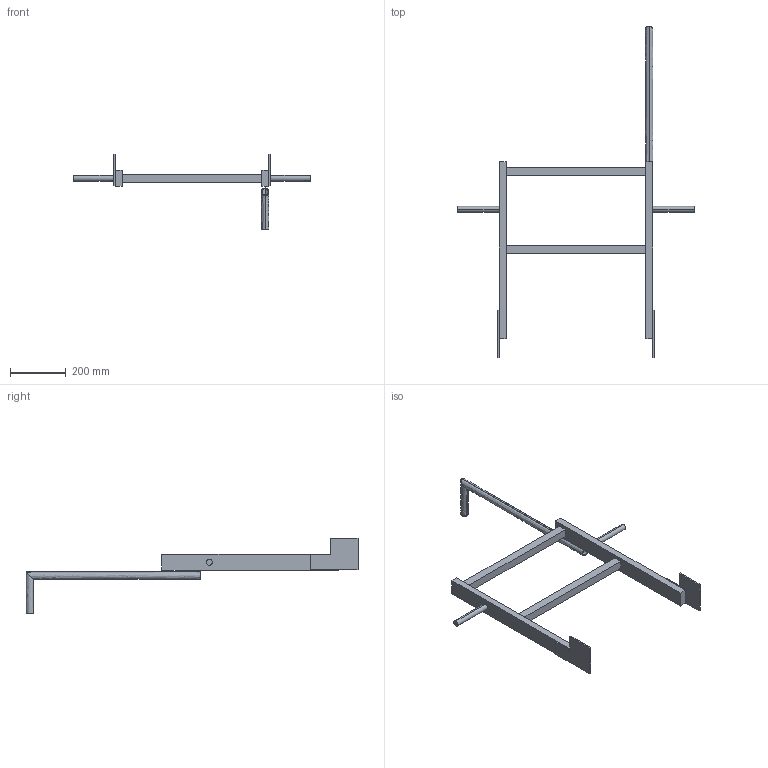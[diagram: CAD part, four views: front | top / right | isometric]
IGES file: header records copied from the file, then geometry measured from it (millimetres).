
Start section:  PTC IGES file: 52331386.igs
Global section: file name: 52331386.igs; native system: Creo Parametric by PTC Inc.; preprocessor: 2022162; author: wep; organization: Unknown; date: 20241218.091423; units: millimetre
Bounding box: 850 x 1190.45 x 271.35 mm (x, y, z)
Surface area: 511708.9 mm2 (no closed solid volume)
Topology: 0 solids, 0 shells, 52 faces, 256 edges, 256 vertices
Faces by surface type: bspline 40, revolution 12
